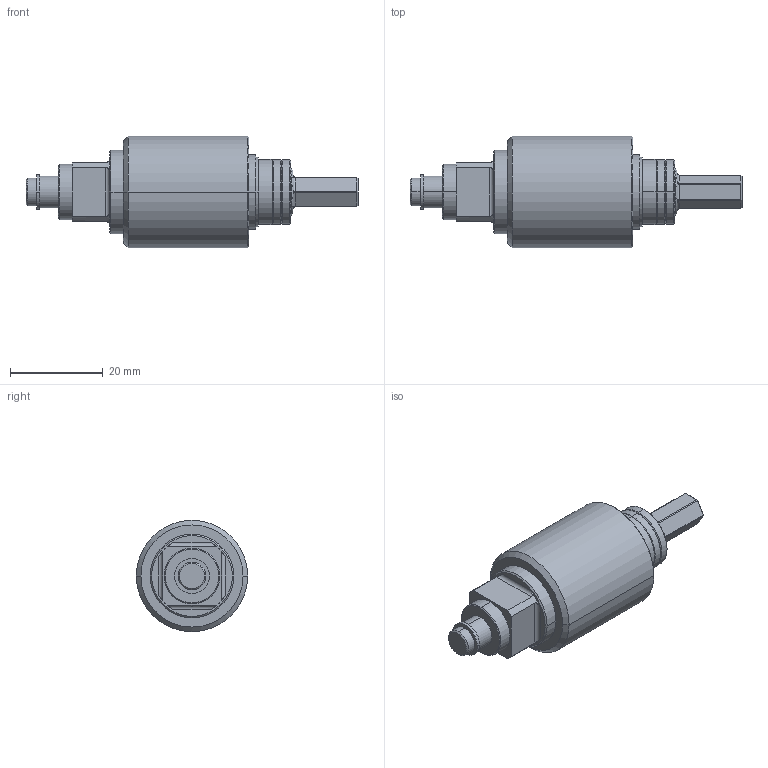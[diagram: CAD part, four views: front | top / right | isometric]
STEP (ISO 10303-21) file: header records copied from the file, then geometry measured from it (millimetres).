
FILE_DESCRIPTION((''),'2;1');
FILE_NAME('6159363770_DIM','2020-06-18T08:53:12',('gre_svc_itools'),(''),'CREO PARAMETRIC BY PTC INC, 2019080','CREO PARAMETRIC BY PTC INC, 2019080','');
FILE_SCHEMA(('AP242_MANAGED_MODEL_BASED_3D_ENGINEERING_MIM_LF { 1 0 10303 442 1 1 4 }'));
Length unit declared in the file: millimetre
Products named in the file (1): 6159363770_DIM
Bounding box: 71.5 x 24 x 24 mm (x, y, z)
Volume: 11245.7 mm3; surface area: 8755.5 mm2
Topology: 1 solids, 1 shells, 143 faces, 320 edges, 197 vertices
Faces by surface type: cylinder 66, plane 39, cone 30, torus 8
Entity records: 4627 total; most frequent: CARTESIAN_POINT 1054, DIRECTION 709, ORIENTED_EDGE 640, EDGE_CURVE 320, AXIS2_PLACEMENT_3D 284, VERTEX_POINT 197, EDGE_LOOP 163, FACE_OUTER_BOUND 143
